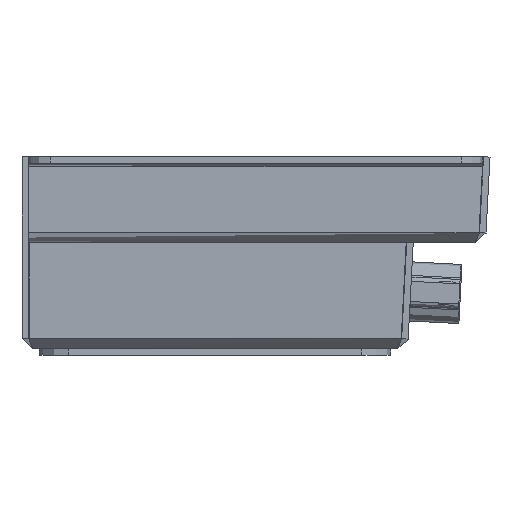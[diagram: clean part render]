
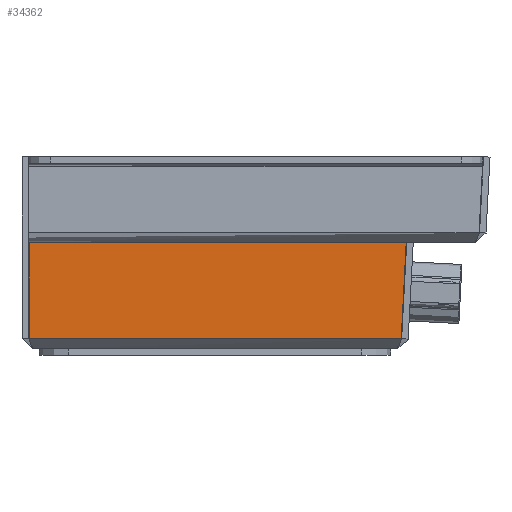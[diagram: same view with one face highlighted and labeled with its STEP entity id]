
A CAD part, left-side view. The second image highlights one B-rep face of the part: STEP entity #34362.
In plain terms, the highlighted planar face has unit normal (-1, 0, 0) as drawn and (1, 0, 0) by its records, which use the part's own axes.
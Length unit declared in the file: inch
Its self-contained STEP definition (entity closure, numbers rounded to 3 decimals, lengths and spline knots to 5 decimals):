
#447 = CARTESIAN_POINT ( 'NONE',  ( 3.06515, -1.59632, -51.95364 ) ) ;
#1342 = VERTEX_POINT ( 'NONE', #53561 ) ;
#1980 = DIRECTION ( 'NONE',  ( 0., 0., 1. ) ) ;
#2231 = AXIS2_PLACEMENT_3D ( 'NONE', #54795, #28443, #1980 ) ;
#4424 = CARTESIAN_POINT ( 'NONE',  ( 3.06515, 3.04973, -61.62106 ) ) ;
#4649 = EDGE_LOOP ( 'NONE', ( #45765, #49755, #41644, #55178 ) ) ;
#5630 = EDGE_CURVE ( 'NONE', #49901, #31487, #46807, .T. ) ;
#6209 = PLANE ( 'NONE',  #2231 ) ;
#8393 = EDGE_CURVE ( 'NONE', #1342, #44584, #39602, .T. ) ;
#9406 = VECTOR ( 'NONE', #53953, 39.37008 ) ;
#11801 = CARTESIAN_POINT ( 'NONE',  ( 3.06515, -2.10737, -62.94887 ) ) ;
#12933 = VECTOR ( 'NONE', #56714, 39.37008 ) ;
#14567 = FACE_OUTER_BOUND ( 'NONE', #4649, .T. ) ;
#17149 = VECTOR ( 'NONE', #25219, 39.37008 ) ;
#17944 = EDGE_CURVE ( 'NONE', #44584, #49901, #30337, .T. ) ;
#23045 = VECTOR ( 'NONE', #31305, 39.37008 ) ;
#23081 = CARTESIAN_POINT ( 'NONE',  ( 3.06515, -2.10737, -61.62106 ) ) ;
#25219 = DIRECTION ( 'NONE',  ( 0., 1., 0. ) ) ;
#25911 = CARTESIAN_POINT ( 'NONE',  ( 3.06515, 3.04973, -51.92685 ) ) ;
#27878 = EDGE_CURVE ( 'NONE', #31487, #1342, #56348, .T. ) ;
#28443 = DIRECTION ( 'NONE',  ( -1., 0., 0. ) ) ;
#30337 = LINE ( 'NONE', #11801, #17149 ) ;
#31305 = DIRECTION ( 'NONE',  ( 0., -0.052, -0.999 ) ) ;
#31487 = VERTEX_POINT ( 'NONE', #4424 ) ;
#34362 = ADVANCED_FACE ( 'NONE', ( #14567 ), #6209, .F. ) ;
#39602 = LINE ( 'NONE', #447, #23045 ) ;
#41644 = ORIENTED_EDGE ( 'NONE', *, *, #27878, .T. ) ;
#42521 = CARTESIAN_POINT ( 'NONE',  ( 3.06515, 3.04973, -62.94887 ) ) ;
#44584 = VERTEX_POINT ( 'NONE', #46430 ) ;
#45765 = ORIENTED_EDGE ( 'NONE', *, *, #17944, .T. ) ;
#46430 = CARTESIAN_POINT ( 'NONE',  ( 3.06515, -2.17255, -62.94887 ) ) ;
#46807 = LINE ( 'NONE', #25911, #12933 ) ;
#49755 = ORIENTED_EDGE ( 'NONE', *, *, #5630, .T. ) ;
#49901 = VERTEX_POINT ( 'NONE', #42521 ) ;
#53561 = CARTESIAN_POINT ( 'NONE',  ( 3.06515, -2.10297, -61.62106 ) ) ;
#53953 = DIRECTION ( 'NONE',  ( 0., -1., 0. ) ) ;
#54795 = CARTESIAN_POINT ( 'NONE',  ( 3.06515, -2.10737, -51.92685 ) ) ;
#55178 = ORIENTED_EDGE ( 'NONE', *, *, #8393, .T. ) ;
#56348 = LINE ( 'NONE', #23081, #9406 ) ;
#56714 = DIRECTION ( 'NONE',  ( 0., 0., 1. ) ) ;
